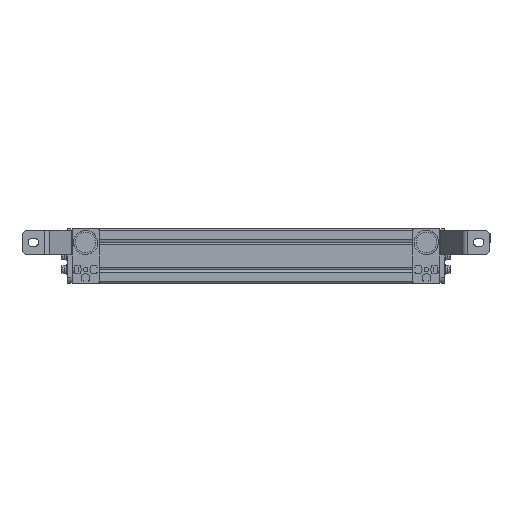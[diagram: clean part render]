
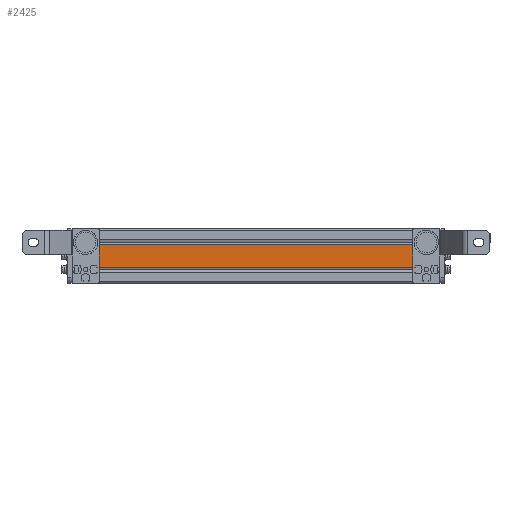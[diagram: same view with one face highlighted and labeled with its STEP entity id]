
A CAD part, front view. The second image highlights one B-rep face of the part: STEP entity #2425.
In plain terms, the highlighted planar face has unit normal (0, -1, 0).
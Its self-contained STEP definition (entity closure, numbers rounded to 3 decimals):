
#694 = VECTOR ( 'NONE', #4902, 1000. ) ;
#789 = CARTESIAN_POINT ( 'NONE',  ( 22.5, 0., -18.3 ) ) ;
#983 = AXIS2_PLACEMENT_3D ( 'NONE', #3463, #4551, #7960 ) ;
#1295 = CARTESIAN_POINT ( 'NONE',  ( 565., 0., -18.3 ) ) ;
#1435 = ORIENTED_EDGE ( 'NONE', *, *, #9002, .F. ) ;
#1506 = ORIENTED_EDGE ( 'NONE', *, *, #13876, .T. ) ;
#2103 = PLANE ( 'NONE',  #983 ) ;
#2425 = ADVANCED_FACE ( 'NONE', ( #10381 ), #2103, .F. ) ;
#3216 = VERTEX_POINT ( 'NONE', #789 ) ;
#3463 = CARTESIAN_POINT ( 'NONE',  ( 565., 0., 18.3 ) ) ;
#4551 = DIRECTION ( 'NONE',  ( 0., 1., 0. ) ) ;
#4802 = DIRECTION ( 'NONE',  ( -1., 0., 0. ) ) ;
#4808 = ORIENTED_EDGE ( 'NONE', *, *, #8492, .T. ) ;
#4902 = DIRECTION ( 'NONE',  ( 0., 0., 1. ) ) ;
#5278 = VECTOR ( 'NONE', #6890, 1000. ) ;
#5763 = LINE ( 'NONE', #12628, #5278 ) ;
#6890 = DIRECTION ( 'NONE',  ( 0., 0., -1. ) ) ;
#7672 = EDGE_LOOP ( 'NONE', ( #7954, #4808, #1435, #1506 ) ) ;
#7782 = CARTESIAN_POINT ( 'NONE',  ( 565., 0., 18.3 ) ) ;
#7954 = ORIENTED_EDGE ( 'NONE', *, *, #8700, .T. ) ;
#7960 = DIRECTION ( 'NONE',  ( -1., 0., 0. ) ) ;
#8492 = EDGE_CURVE ( 'NONE', #14170, #3216, #5763, .T. ) ;
#8700 = EDGE_CURVE ( 'NONE', #10578, #14170, #8777, .T. ) ;
#8777 = LINE ( 'NONE', #7782, #14699 ) ;
#9002 = EDGE_CURVE ( 'NONE', #10612, #3216, #9362, .T. ) ;
#9362 = LINE ( 'NONE', #1295, #12284 ) ;
#10381 = FACE_OUTER_BOUND ( 'NONE', #7672, .T. ) ;
#10559 = CARTESIAN_POINT ( 'NONE',  ( 542.5, 0., 18.3 ) ) ;
#10578 = VERTEX_POINT ( 'NONE', #10559 ) ;
#10612 = VERTEX_POINT ( 'NONE', #14414 ) ;
#10953 = DIRECTION ( 'NONE',  ( -1., 0., 0. ) ) ;
#11427 = LINE ( 'NONE', #14126, #694 ) ;
#12284 = VECTOR ( 'NONE', #4802, 1000. ) ;
#12536 = CARTESIAN_POINT ( 'NONE',  ( 22.5, 0., 18.3 ) ) ;
#12628 = CARTESIAN_POINT ( 'NONE',  ( 22.5, 0., 18.3 ) ) ;
#13876 = EDGE_CURVE ( 'NONE', #10612, #10578, #11427, .T. ) ;
#14126 = CARTESIAN_POINT ( 'NONE',  ( 542.5, 0., 18.3 ) ) ;
#14170 = VERTEX_POINT ( 'NONE', #12536 ) ;
#14414 = CARTESIAN_POINT ( 'NONE',  ( 542.5, 0., -18.3 ) ) ;
#14699 = VECTOR ( 'NONE', #10953, 1000. ) ;
